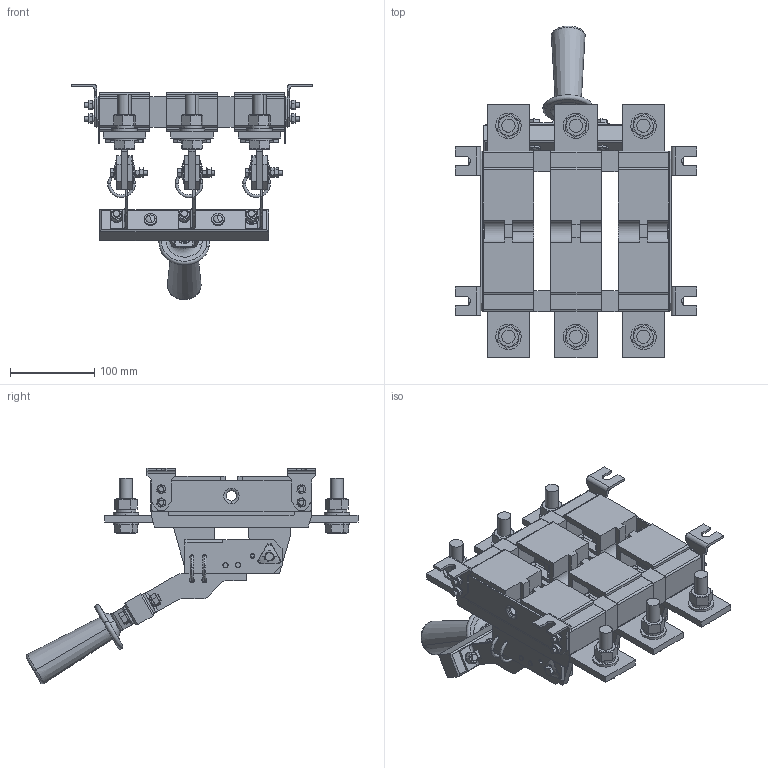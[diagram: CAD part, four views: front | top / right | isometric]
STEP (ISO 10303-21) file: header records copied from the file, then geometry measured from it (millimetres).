
FILE_DESCRIPTION (( 'STEP AP214' ), '1' );
FILE_NAME ('Ðàçúåäèíèòåëü ÐÅ19-41-31110-1000À-ÓÕË3-ÊÝÀÇ.STEP', '2023-08-21T10:39:40', ( '' ), ( '' ), 'SwSTEP 2.0', 'SolidWorks 2018', '' );
FILE_SCHEMA (( 'AUTOMOTIVE_DESIGN' ));
Length unit declared in the file: millimetre
Products named in the file (1): Ðàçúåäèíèòåëü ÐÅ19-41-31110-1000À-ÓÕË3-ÊÝÀÇ
Bounding box: 286 x 393.34 x 255.78 mm (x, y, z)
Surface area: 609762 mm2 (no closed solid volume)
Topology: 0 solids, 239 shells, 1734 faces, 5742 edges, 4228 vertices
Faces by surface type: plane 1024, cylinder 447, cone 172, torus 69, sphere 22
Entity records: 84915 total; most frequent: CARTESIAN_POINT 16314, DIRECTION 10311, ORIENTED_EDGE 9046, EDGE_CURVE 5718, VERTEX_POINT 4228, AXIS2_PLACEMENT_3D 3707, LINE 2897, VECTOR 2897
